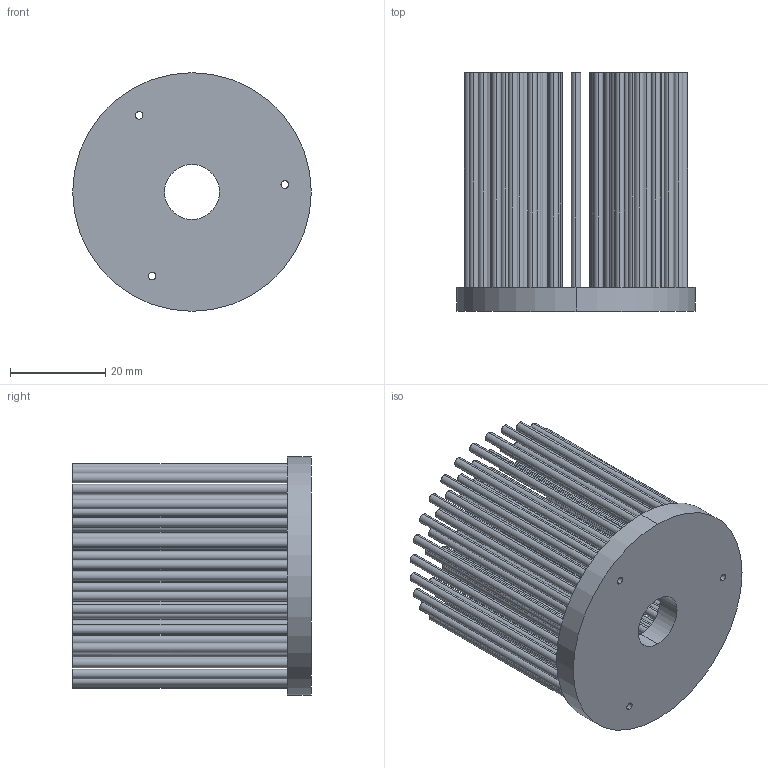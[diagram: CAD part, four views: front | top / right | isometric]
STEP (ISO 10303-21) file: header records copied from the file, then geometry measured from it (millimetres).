
FILE_DESCRIPTION (( 'STEP AP203' ), '1' );
FILE_NAME ('XSA-61-M2 (O50mm X 50mm).STEP', '2012-06-27T08:56:06', ( 'Your User Name' ), ( 'Your Company Name' ), 'SwSTEP 2.0', 'SolidWorks 2011', '' );
FILE_SCHEMA (( 'CONFIG_CONTROL_DESIGN' ));
Length unit declared in the file: millimetre
Products named in the file (1): XSA-61-M2 (O50mm X 50mm)
Bounding box: 50 x 50 x 50 mm (x, y, z)
Volume: 21991.4 mm3; surface area: 30195.7 mm2
Topology: 1 solids, 1 shells, 284 faces, 578 edges, 384 vertices
Faces by surface type: cylinder 190, plane 94
Entity records: 7751 total; most frequent: DIRECTION 1536, CARTESIAN_POINT 1247, ORIENTED_EDGE 1156, AXIS2_PLACEMENT_3D 673, EDGE_CURVE 578, CIRCLE 388, VERTEX_POINT 384, EDGE_LOOP 380
